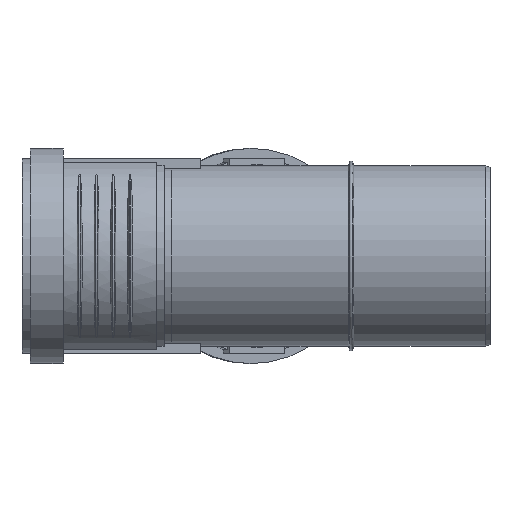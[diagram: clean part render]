
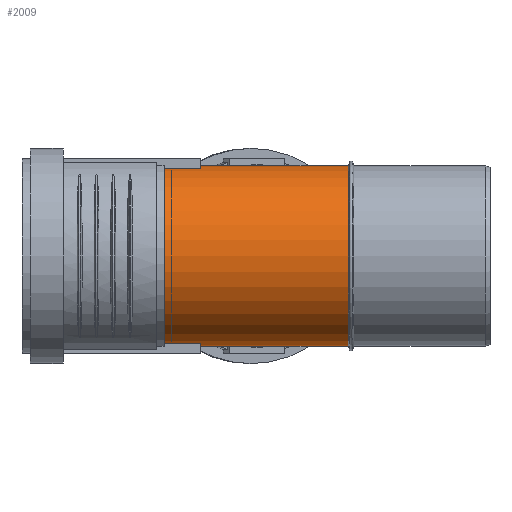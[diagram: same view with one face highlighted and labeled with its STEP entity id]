
A CAD part, left-side view. The second image highlights one B-rep face of the part: STEP entity #2009.
In plain terms, the highlighted cylindrical face has radius 37.6 mm (diameter 75.2 mm), a full revolution.
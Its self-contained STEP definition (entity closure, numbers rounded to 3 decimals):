
#172=ELLIPSE($,#2151,52.051,37.6);
#173=ELLIPSE($,#2152,54.374,37.6);
#265=CYLINDRICAL_SURFACE($,#2153,37.6);
#431=FACE_BOUND($,#723,.T.);
#432=FACE_BOUND($,#724,.T.);
#597=FACE_OUTER_BOUND($,#722,.T.);
#722=EDGE_LOOP($,(#1477));
#723=EDGE_LOOP($,(#1478));
#724=EDGE_LOOP($,(#1479,#1480));
#889=CIRCLE($,#2139,37.6);
#894=CIRCLE($,#2148,37.6);
#986=VERTEX_POINT($,#3005);
#991=VERTEX_POINT($,#3019);
#992=VERTEX_POINT($,#3023);
#993=VERTEX_POINT($,#3024);
#1190=EDGE_CURVE($,#986,#986,#889,.T.);
#1195=EDGE_CURVE($,#991,#991,#894,.T.);
#1196=EDGE_CURVE($,#992,#993,#172,.T.);
#1197=EDGE_CURVE($,#993,#992,#173,.T.);
#1477=ORIENTED_EDGE($,*,*,#1190,.T.);
#1478=ORIENTED_EDGE($,*,*,#1195,.T.);
#1479=ORIENTED_EDGE($,*,*,#1196,.T.);
#1480=ORIENTED_EDGE($,*,*,#1197,.T.);
#2009=ADVANCED_FACE($,(#597,#431,#432),#265,.T.);
#2139=AXIS2_PLACEMENT_3D($,#3006,#2380,#2381);
#2148=AXIS2_PLACEMENT_3D($,#3020,#2398,#2399);
#2151=AXIS2_PLACEMENT_3D($,#3025,#2404,#2405);
#2152=AXIS2_PLACEMENT_3D($,#3026,#2406,#2407);
#2153=AXIS2_PLACEMENT_3D($,#3027,#2408,#2409);
#2380=DIRECTION('center_axis',(0.,1.,0.));
#2381=DIRECTION('ref_axis',(1.,0.,0.));
#2398=DIRECTION('center_axis',(0.,-1.,0.));
#2399=DIRECTION('ref_axis',(1.,0.,0.));
#2404=DIRECTION('center_axis',(-0.692,-0.722,0.));
#2405=DIRECTION('ref_axis',(0.722,-0.692,0.));
#2406=DIRECTION('center_axis',(-0.722,0.692,0.));
#2407=DIRECTION('ref_axis',(-0.692,-0.722,0.));
#2408=DIRECTION('center_axis',(0.,1.,0.));
#2409=DIRECTION('ref_axis',(1.,0.,0.));
#3005=CARTESIAN_POINT('',(-37.6,58.95,0.));
#3006=CARTESIAN_POINT('Origin',(0.,58.95,0.));
#3019=CARTESIAN_POINT('',(37.6,136.64,0.));
#3020=CARTESIAN_POINT('Origin',(0.,136.64,0.));
#3023=CARTESIAN_POINT('',(0.,95.94,-37.6));
#3024=CARTESIAN_POINT('',(0.,95.94,37.6));
#3025=CARTESIAN_POINT('Origin',(0.,95.94,0.));
#3026=CARTESIAN_POINT('Origin',(0.,95.94,0.));
#3027=CARTESIAN_POINT('Origin',(0.,0.,0.));
